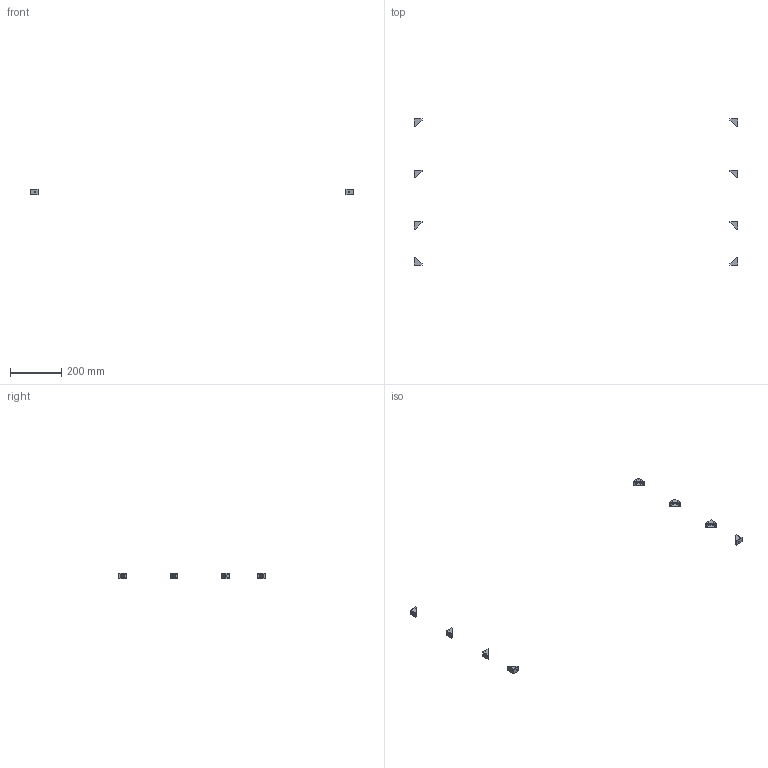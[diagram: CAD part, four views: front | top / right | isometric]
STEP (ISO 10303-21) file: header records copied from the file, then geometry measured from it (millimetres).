
FILE_DESCRIPTION(/* description */ (''),/* implementation_level */ '2;1');
FILE_NAME(/* name */ '12.frame-table#12.2#HBLFSN5',/* time_stamp */ '2014-12-01T20:19:40+01:00',/* author */ (''),/* organization */ (''),/* preprocessor_version */ 'ST-DEVELOPER v14',/* originating_system */ '',/* authorisation */ '');
FILE_SCHEMA (('AUTOMOTIVE_DESIGN'));
Length unit declared in the file: millimetre
Products named in the file (2): Document; angle bracket, single
Assembly tree (4 placements, depth 2):
  Document
    angle bracket, single  x4
Bounding box: 1260 x 570 x 20 mm (x, y, z)
Volume: 50841.8 mm3; surface area: 33754.3 mm2
Topology: 8 solids, 8 shells, 144 faces, 352 edges, 224 vertices
Faces by surface type: plane 96, bspline 48
Entity records: 6378 total; most frequent: CARTESIAN_POINT 3282, B_SPLINE_CURVE_WITH_KNOTS 570, ORIENTED_EDGE 440, PCURVE 440, DEFINITIONAL_REPRESENTATION 440, SURFACE_CURVE 220, EDGE_CURVE 220, VERTEX_POINT 140
